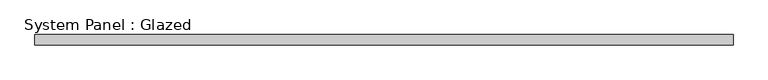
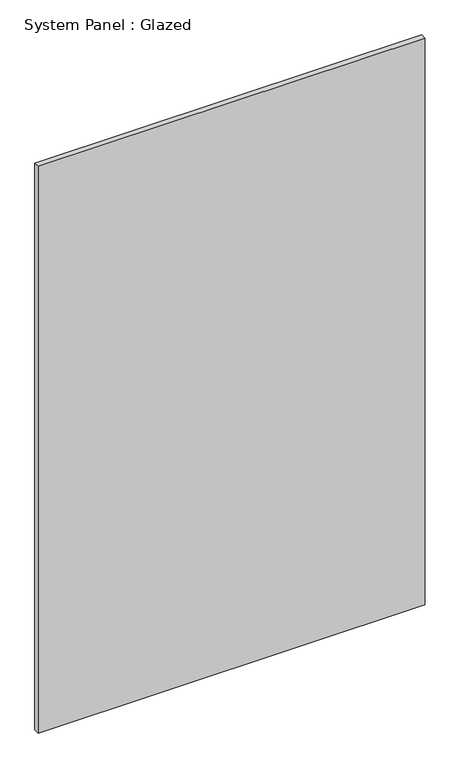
"""IFC4 building model written with IfcOpenShell, lengths in millimetres: plate geometry, System Panel : Glazed."""

from ifc_helpers import new_model, si_unit, origin, origin_with_axes, place, context, project, spatial, polyline, outline, extrude, source, transform, mapped, element, save


def system_panel_glazed_823fbb8e(model_context):
    return source(origin(), model_context, "Body", "SweptSolid", [
        extrude(outline(polyline([(876.1236512, 19.05), (-876.1236512, 19.05), (-876.1236512, 44.45), (876.1236512, 44.45), (876.1236512, 19.05)])), origin_with_axes(), (0.0, 0.0, 1.0), 2711.4294337),
    ])


if __name__ == "__main__":
    model = new_model("IFC4")
    model_context = context("Model", 3, world=origin())
    ifc_project = project(units=[si_unit("LENGTHUNIT", "METRE", prefix="MILLI")], contexts=[model_context])
    site = spatial("IfcSite", under=ifc_project)
    building = spatial("IfcBuilding", under=site)
    placement = place(None, origin())
    system_panel_glazed_shape = system_panel_glazed_823fbb8e(model_context)
    element("IfcPlate", 1, ObjectType="System Panel : Glazed", at=placement, inside=building, context=model_context, shape_type="MappedRepresentation", body=[
        mapped(system_panel_glazed_shape, transform((0.0, 0.0, 0.0), x_axis=(1.0, 0.0, 0.0), y_axis=(0.0, 1.0, 0.0), z_axis=(0.0, 0.0, 1.0))),
    ])
    save(model, "model.ifc")
